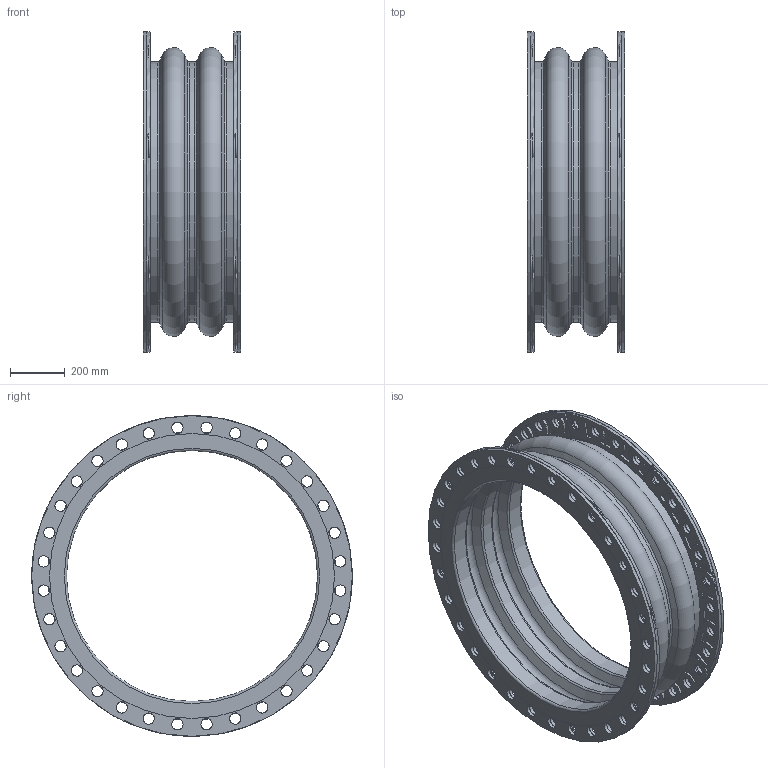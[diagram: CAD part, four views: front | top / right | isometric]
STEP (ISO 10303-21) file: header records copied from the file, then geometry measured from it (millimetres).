
FILE_DESCRIPTION(/* description */ (''),/* implementation_level */ '2;1');
FILE_NAME(/* name */ 'C:\001_Work\Designs\Mercer2014\702 36IDx14FF.stp',/* time_stamp */ '2016-04-10T14:36:38-04:00',/* author */ ('rramoutar'),/* organization */ ('Mason Industries Inc.'),/* preprocessor_version */ 'ST-DEVELOPER v15.6',/* originating_system */ 'Autodesk Inventor 2015',/* authorisation */ '');
FILE_SCHEMA (('CONFIG_CONTROL_DESIGN'));
Length unit declared in the file: inch
Products named in the file (1): 702 36IDx14FF
Bounding box: 355.6 x 1168.4 x 1168.4 mm (x, y, z)
Volume: 40390518.7 mm3; surface area: 6033092.5 mm2
Topology: 17 solids, 17 shells, 1012 faces, 2722 edges, 1812 vertices
Faces by surface type: cylinder 728, plane 230, torus 46, cone 8
Full cylindrical faces by diameter (mm): 41.275 x144, 914.4 x3, 950.912 x3, 1168.4 x2
Entity records: 33908 total; most frequent: CARTESIAN_POINT 6109, DIRECTION 6066, ORIENTED_EDGE 5064, AXIS2_PLACEMENT_3D 2585, EDGE_CURVE 2532, VERTEX_POINT 1796, CIRCLE 1572, EDGE_LOOP 1544
